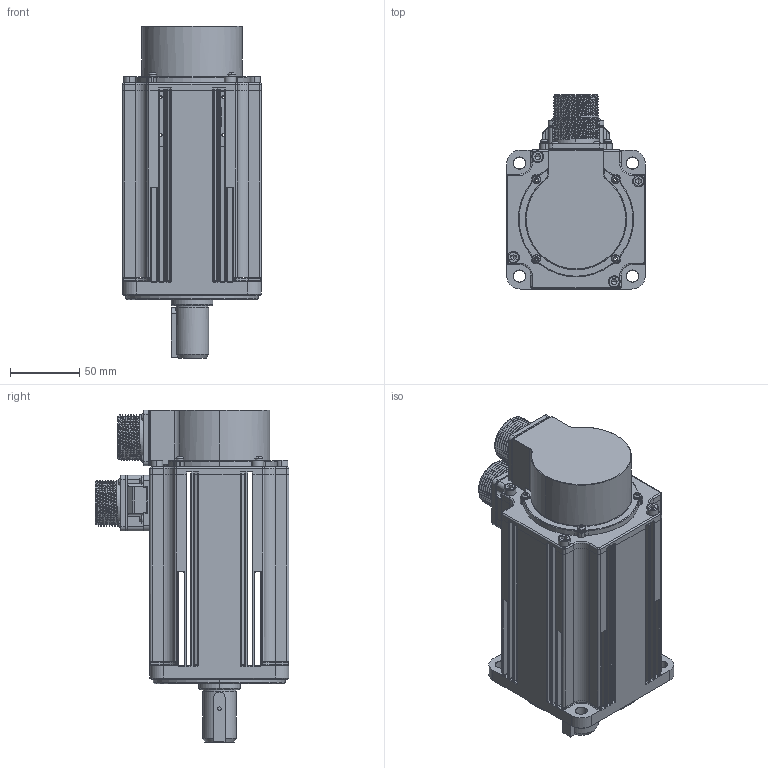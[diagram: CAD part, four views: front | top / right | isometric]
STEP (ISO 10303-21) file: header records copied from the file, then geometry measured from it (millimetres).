
FILE_DESCRIPTION (( 'STEP AP214' ), '1' );
FILE_NAME ('口100 2.5kW电机（雷赛）.STEP', '2024-09-18T07:53:20', ( '' ), ( '' ), 'SwSTEP 2.0', 'SolidWorks 2021', '' );
FILE_SCHEMA (( 'AUTOMOTIVE_DESIGN' ));
Length unit declared in the file: millimetre
Products named in the file (1): 口100 2.5kW电机（雷赛）
Bounding box: 100 x 139.5 x 238.9 mm (x, y, z)
Surface area: 139571.5 mm2 (no closed solid volume)
Topology: 0 solids, 67 shells, 1598 faces, 4425 edges, 2794 vertices
Faces by surface type: cylinder 666, plane 467, torus 330, sphere 68, cone 54, bspline 13
Entity records: 71049 total; most frequent: CARTESIAN_POINT 12654, DIRECTION 9539, ORIENTED_EDGE 7430, EDGE_CURVE 4359, AXIS2_PLACEMENT_3D 3799, VERTEX_POINT 2772, CIRCLE 2213, VECTOR 1941
